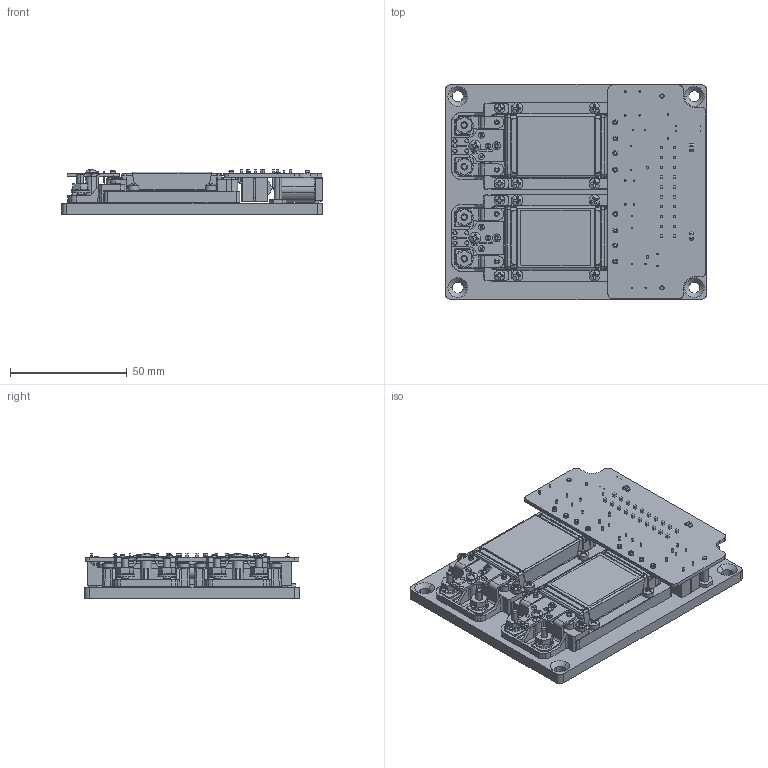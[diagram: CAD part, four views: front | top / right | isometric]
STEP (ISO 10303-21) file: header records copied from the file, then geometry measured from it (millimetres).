
FILE_DESCRIPTION (( 'STEP AP214' ), '1' );
FILE_NAME ('VA-H-LUG-2OUT.STEP', '2011-02-16T18:57:35', ( 'Vicor Employee' ), ( 'Vicor Corporation' ), 'SwSTEP 2.0', 'SolidWorks 2011', '' );
FILE_SCHEMA (( 'AUTOMOTIVE_DESIGN' ));
Length unit declared in the file: inch
Products named in the file (1): VA-H-LUG-2OUT
Bounding box: 111.83 x 92.28 x 19.28 mm (x, y, z)
Volume: 85831.8 mm3; surface area: 80365.4 mm2
Topology: 1 solids, 1 shells, 5091 faces, 13855 edges, 8902 vertices
Faces by surface type: plane 2889, cylinder 1402, bspline 352, cone 286, torus 102, sphere 60
Entity records: 246812 total; most frequent: CARTESIAN_POINT 54039, ORIENTED_EDGE 27646, DIRECTION 24889, EDGE_CURVE 13823, VERTEX_POINT 8902, LINE 8597, VECTOR 8597, AXIS2_PLACEMENT_3D 8146
